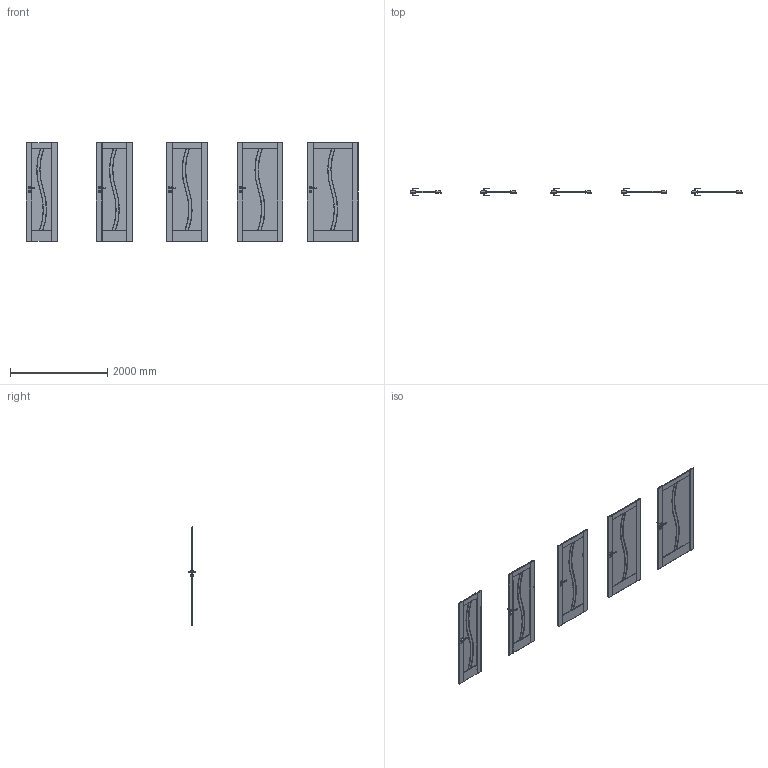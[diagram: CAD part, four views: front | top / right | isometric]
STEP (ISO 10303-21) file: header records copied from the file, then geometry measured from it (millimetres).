
FILE_DESCRIPTION(/* description */ (''),/* implementation_level */ '2;1');
FILE_NAME(/* name */ '049906_A_2-Skrzydło Verte Home model E.1_ polska norma _PN__ przylgowe..stp',/* time_stamp */ '2024-09-12T12:47:04+02:00',/* author */ (''),/* organization */ (''),/* preprocessor_version */ 'ST-DEVELOPER v16',/* originating_system */ 'SIEMENS PLM Software NX 11.0',/* authorisation */ '');
FILE_SCHEMA (('AUTOMOTIVE_DESIGN { 1 0 10303 214 3 1 1 1 }'));
Products named in the file (1): bkni46A0974Eoum4
Bounding box: 6844 x 153.13 x 2030.02 mm (x, y, z)
Volume: 182816197.1 mm3; surface area: 20561916.6 mm2
Topology: 53 solids, 80 shells, 2985 faces, 8037 edges, 5057 vertices
Faces by surface type: plane 1590, cylinder 630, cone 240, torus 200, bspline 185, sphere 140
Entity records: 103560 total; most frequent: CARTESIAN_POINT 29407, ORIENTED_EDGE 15794, DIRECTION 14997, EDGE_CURVE 7897, AXIS2_PLACEMENT_3D 5381, VERTEX_POINT 5057, LINE 4235, VECTOR 4235
